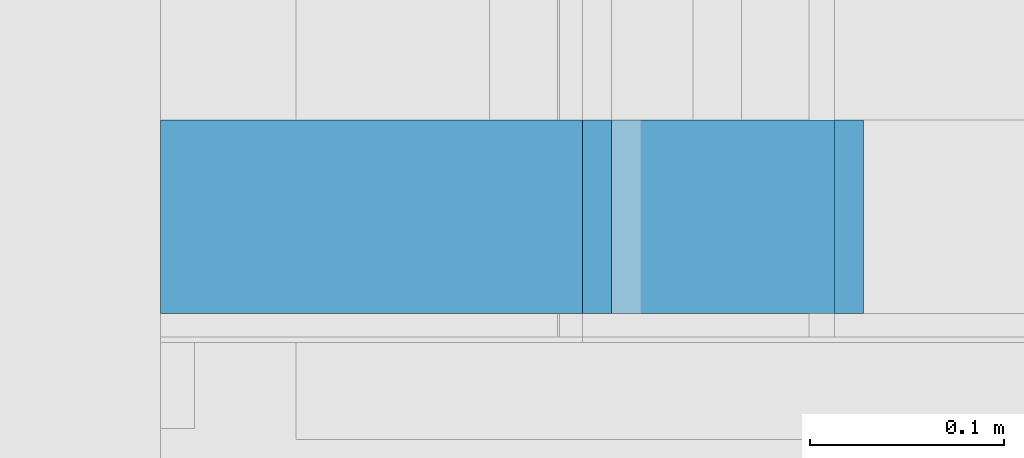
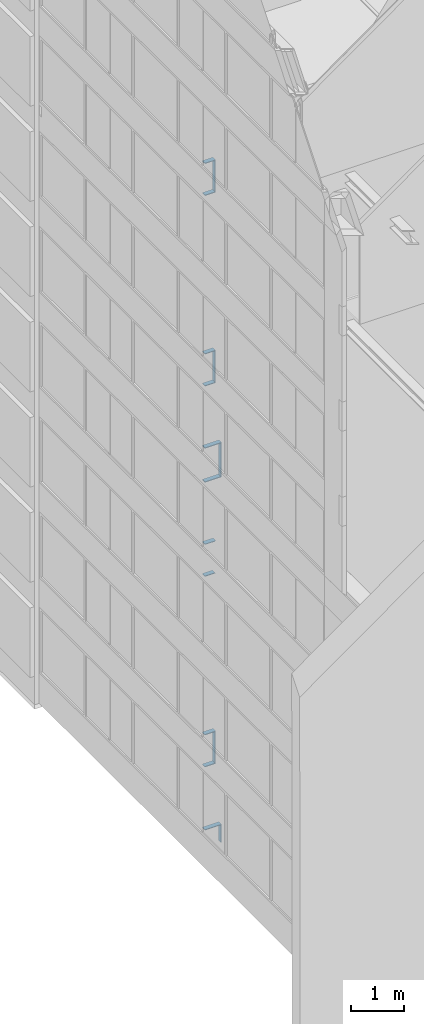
# One storey, part 195 of 583: 16 building element parts, 16 elements without a shape of their own.
"""IFC2X3 building model written with IfcOpenShell, lengths in metres."""

from ifc_helpers import new_model, entity, si_unit, converted_unit, derived_unit, money_unit, direction, frame, origin_with_axes, place, context, subcontext, project, spatial, polyline, outline, extrude, material, type_object, element, aggregate, save


model = new_model("IFC2X3")

# Units and contexts
model_context = context("Model", 3, precision=1e-05, world=origin_with_axes(), true_north=direction((0.0, 1.0)))
body_context = subcontext(model_context, "Body", "Model", "MODEL_VIEW", scale=1.0)
ifc_project = project(units=[si_unit("LENGTHUNIT", "METRE"), si_unit("AREAUNIT", "SQUARE_METRE"), si_unit("VOLUMEUNIT", "CUBIC_METRE"), si_unit("ABSORBEDDOSEUNIT", "GRAY"), si_unit("AMOUNTOFSUBSTANCEUNIT", "MOLE"), si_unit("DOSEEQUIVALENTUNIT", "SIEVERT"), si_unit("ELECTRICCAPACITANCEUNIT", "FARAD"), si_unit("ELECTRICCHARGEUNIT", "COULOMB"), si_unit("ELECTRICCONDUCTANCEUNIT", "SIEMENS"), si_unit("ELECTRICCURRENTUNIT", "AMPERE"), si_unit("ELECTRICRESISTANCEUNIT", "OHM"), si_unit("ELECTRICVOLTAGEUNIT", "VOLT"), si_unit("ENERGYUNIT", "JOULE"), si_unit("FORCEUNIT", "NEWTON"), si_unit("FREQUENCYUNIT", "HERTZ"), si_unit("ILLUMINANCEUNIT", "LUX"), si_unit("INDUCTANCEUNIT", "HENRY"), si_unit("LUMINOUSFLUXUNIT", "LUMEN"), si_unit("LUMINOUSINTENSITYUNIT", "CANDELA"), si_unit("MAGNETICFLUXDENSITYUNIT", "TESLA"), si_unit("MAGNETICFLUXUNIT", "WEBER"), si_unit("MASSUNIT", "GRAM"), converted_unit("PLANEANGLEUNIT", "degree", entity("IfcReal", 0.0174532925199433), si_unit("PLANEANGLEUNIT", "RADIAN"), dimensions=[0, 0, 0, 0, 0, 0, 0]), si_unit("POWERUNIT", "WATT"), si_unit("PRESSUREUNIT", "PASCAL"), si_unit("RADIOACTIVITYUNIT", "BECQUEREL"), si_unit("SOLIDANGLEUNIT", "STERADIAN"), si_unit("THERMODYNAMICTEMPERATUREUNIT", "KELVIN"), si_unit("TIMEUNIT", "SECOND"), derived_unit("ACCELERATIONUNIT", [(si_unit("LENGTHUNIT", "METRE"), 1), (si_unit("TIMEUNIT", "SECOND"), -2)]), derived_unit("ANGULARVELOCITYUNIT", [(converted_unit("PLANEANGLEUNIT", "degree", entity("IfcReal", 0.0174532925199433), si_unit("PLANEANGLEUNIT", "RADIAN"), dimensions=[0, 0, 0, 0, 0, 0, 0]), 1), (si_unit("TIMEUNIT", "SECOND"), -1)]), derived_unit("CURVATUREUNIT", [(converted_unit("PLANEANGLEUNIT", "degree", entity("IfcReal", 0.0174532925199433), si_unit("PLANEANGLEUNIT", "RADIAN"), dimensions=[0, 0, 0, 0, 0, 0, 0]), 1), (si_unit("LENGTHUNIT", "METRE"), -1)]), derived_unit("DYNAMICVISCOSITYUNIT", [(si_unit("PRESSUREUNIT", "PASCAL"), 1), (si_unit("TIMEUNIT", "SECOND"), 1)]), derived_unit("HEATFLUXDENSITYUNIT", [(si_unit("POWERUNIT", "WATT"), 1), (si_unit("LENGTHUNIT", "METRE"), -2)]), derived_unit("HEATINGVALUEUNIT", [(si_unit("ENERGYUNIT", "JOULE"), 1), (si_unit("MASSUNIT", "GRAM"), -1)]), derived_unit("INTEGERCOUNTRATEUNIT", [(si_unit("TIMEUNIT", "SECOND"), -1)]), derived_unit("IONCONCENTRATIONUNIT", [(si_unit("MASSUNIT", "GRAM"), 1), (si_unit("VOLUMEUNIT", "CUBIC_METRE"), -1)]), derived_unit("ISOTHERMALMOISTURECAPACITYUNIT", [(si_unit("VOLUMEUNIT", "CUBIC_METRE"), 1), (si_unit("MASSUNIT", "GRAM"), -1)]), derived_unit("KINEMATICVISCOSITYUNIT", [(si_unit("AREAUNIT", "SQUARE_METRE"), 1), (si_unit("TIMEUNIT", "SECOND"), -1)]), derived_unit("LINEARFORCEUNIT", [(si_unit("FORCEUNIT", "NEWTON"), 1), (si_unit("LENGTHUNIT", "METRE"), -1)]), derived_unit("LINEARMOMENTUNIT", [(si_unit("FORCEUNIT", "NEWTON"), 1), (si_unit("LENGTHUNIT", "METRE"), -1)]), derived_unit("LINEARSTIFFNESSUNIT", [(si_unit("FORCEUNIT", "NEWTON"), 1), (si_unit("LENGTHUNIT", "METRE"), -1)]), derived_unit("LINEARVELOCITYUNIT", [(si_unit("LENGTHUNIT", "METRE"), 1), (si_unit("TIMEUNIT", "SECOND"), -1)]), derived_unit("LUMINOUSINTENSITYDISTRIBUTIONUNIT", [(si_unit("LUMINOUSINTENSITYUNIT", "CANDELA"), 1), (si_unit("LUMINOUSFLUXUNIT", "LUMEN"), -1)]), derived_unit("MASSDENSITYUNIT", [(si_unit("MASSUNIT", "GRAM"), 1), (si_unit("VOLUMEUNIT", "CUBIC_METRE"), -1)]), derived_unit("MASSFLOWRATEUNIT", [(si_unit("MASSUNIT", "GRAM"), 1), (si_unit("TIMEUNIT", "SECOND"), -1)]), derived_unit("MASSPERLENGTHUNIT", [(si_unit("MASSUNIT", "GRAM"), 1), (si_unit("LENGTHUNIT", "METRE"), -1)]), derived_unit("MODULUSOFELASTICITYUNIT", [(si_unit("FORCEUNIT", "NEWTON"), 1), (si_unit("AREAUNIT", "SQUARE_METRE"), -1)]), derived_unit("MODULUSOFLINEARSUBGRADEREACTIONUNIT", [(si_unit("FORCEUNIT", "NEWTON"), 1), (si_unit("LENGTHUNIT", "METRE"), -2)]), derived_unit("MODULUSOFROTATIONALSUBGRADEREACTIONUNIT", [(si_unit("FORCEUNIT", "NEWTON"), 1), (si_unit("LENGTHUNIT", "METRE"), 1)]), derived_unit("MODULUSOFSUBGRADEREACTIONUNIT", [(si_unit("FORCEUNIT", "NEWTON"), 1), (si_unit("VOLUMEUNIT", "CUBIC_METRE"), -1)]), derived_unit("MOISTUREDIFFUSIVITYUNIT", [(si_unit("VOLUMEUNIT", "CUBIC_METRE"), 1), (si_unit("TIMEUNIT", "SECOND"), -1)]), derived_unit("MOLECULARWEIGHTUNIT", [(si_unit("MASSUNIT", "GRAM"), 1), (si_unit("AMOUNTOFSUBSTANCEUNIT", "MOLE"), -1)]), derived_unit("PLANARFORCEUNIT", [(si_unit("FORCEUNIT", "NEWTON"), 1), (si_unit("LENGTHUNIT", "METRE"), -2)]), derived_unit("ROTATIONALFREQUENCYUNIT", [(si_unit("TIMEUNIT", "SECOND"), -1)]), derived_unit("ROTATIONALMASSUNIT", [(si_unit("MASSUNIT", "GRAM"), 1), (si_unit("LENGTHUNIT", "METRE"), 2)]), derived_unit("ROTATIONALSTIFFNESSUNIT", [(si_unit("FORCEUNIT", "NEWTON"), 1), (si_unit("LENGTHUNIT", "METRE"), 1), (converted_unit("PLANEANGLEUNIT", "degree", entity("IfcReal", 0.0174532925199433), si_unit("PLANEANGLEUNIT", "RADIAN"), dimensions=[0, 0, 0, 0, 0, 0, 0]), -1)]), derived_unit("SECTIONAREAINTEGRALUNIT", [(si_unit("LENGTHUNIT", "METRE"), 5)]), derived_unit("SECTIONMODULUSUNIT", [(si_unit("LENGTHUNIT", "METRE"), 3)]), derived_unit("SHEARMODULUSUNIT", [(si_unit("FORCEUNIT", "NEWTON"), 1), (si_unit("AREAUNIT", "SQUARE_METRE"), -1)]), derived_unit("SOUNDPOWERUNIT", [(si_unit("ENERGYUNIT", "JOULE"), 1), (si_unit("TIMEUNIT", "SECOND"), -1)]), derived_unit("SPECIFICHEATCAPACITYUNIT", [(si_unit("FORCEUNIT", "NEWTON"), 1), (si_unit("MASSUNIT", "GRAM"), -1), (si_unit("THERMODYNAMICTEMPERATUREUNIT", "KELVIN"), -1)]), derived_unit("TEMPERATUREGRADIENTUNIT", [(si_unit("THERMODYNAMICTEMPERATUREUNIT", "KELVIN"), 1), (si_unit("LENGTHUNIT", "METRE"), -1)]), derived_unit("THERMALADMITTANCEUNIT", [(si_unit("POWERUNIT", "WATT"), 1), (si_unit("AREAUNIT", "SQUARE_METRE"), -1), (si_unit("THERMODYNAMICTEMPERATUREUNIT", "KELVIN"), -1)]), derived_unit("THERMALCONDUCTANCEUNIT", [(si_unit("POWERUNIT", "WATT"), 1), (si_unit("LENGTHUNIT", "METRE"), -1), (si_unit("THERMODYNAMICTEMPERATUREUNIT", "KELVIN"), -1)]), derived_unit("THERMALEXPANSIONCOEFFICIENTUNIT", [(si_unit("THERMODYNAMICTEMPERATUREUNIT", "KELVIN"), -1)]), derived_unit("THERMALRESISTANCEUNIT", [(si_unit("AREAUNIT", "SQUARE_METRE"), 1), (si_unit("POWERUNIT", "WATT"), -1)]), derived_unit("THERMALTRANSMITTANCEUNIT", [(si_unit("POWERUNIT", "WATT"), 1), (si_unit("AREAUNIT", "SQUARE_METRE"), -1), (si_unit("THERMODYNAMICTEMPERATUREUNIT", "KELVIN"), -1)]), derived_unit("TORQUEUNIT", [(si_unit("FORCEUNIT", "NEWTON"), 1), (si_unit("LENGTHUNIT", "METRE"), 1)]), derived_unit("VAPORPERMEABILITYUNIT", [(si_unit("MASSUNIT", "GRAM"), 1), (si_unit("TIMEUNIT", "SECOND"), -1)]), derived_unit("VOLUMETRICFLOWRATEUNIT", [(si_unit("VOLUMEUNIT", "CUBIC_METRE"), 1), (si_unit("TIMEUNIT", "SECOND"), -1)]), derived_unit("WARPINGCONSTANTUNIT", [(si_unit("LENGTHUNIT", "METRE"), 6)]), derived_unit("WARPINGMOMENTUNIT", [(si_unit("FORCEUNIT", "NEWTON"), 1), (si_unit("LENGTHUNIT", "METRE"), 2)]), money_unit("GBP")], contexts=[model_context])

# Site, building, storey
site_placement = place(None, origin_with_axes())
site = spatial("IfcSite", under=ifc_project, at=site_placement, Name="Site", CompositionType="ELEMENT")
building_placement = place(site_placement, origin_with_axes())
building = spatial("IfcBuilding", under=site, at=building_placement, Name="Building01", CompositionType="ELEMENT")
storey_placement = place(building_placement, frame((0.0, 0.0, 20.78), z_axis=(0.0, 0.0, 1.0), x_axis=(1.0, 0.0, 0.0)))
storey = spatial("IfcBuildingStorey", under=building, at=storey_placement, Name="RL", CompositionType="ELEMENT", Elevation=20.78)

# Wall, building element part
wall_type = type_object("IfcWallType", Name="SHE_A-Walls_Type06d_ExternalWallInsulation_48mm", PredefinedType="NOTDEFINED")
wall_1_placement = place(storey_placement, frame((0.4, 8.64, -20.51), z_axis=(0.0, 1.0, 0.0), x_axis=(0.0, 0.0, 1.0)))
wall_1 = element("IfcWall", 1, at=wall_1_placement, inside=storey, type_object=wall_type, Name="6D", ObjectType="SHE_A-Walls_Type06d_ExternalWallInsulation_48mm")
ifc_material = material(Name="A_BSUK_Walls_Timber")
building_element_part_1_placement = place(wall_1_placement, origin_with_axes())
building_element_part_1 = element("IfcBuildingElementPart", 2, at=building_element_part_1_placement, material=ifc_material, Name="2", context=body_context, shape_type="SweptSolid", body=[
    extrude(outline(polyline([(0.47, 0.063), (0.063, 0.063), (0.048, 0.048), (0.455, 0.048), (0.47, 0.063)])), frame((0.0, 0.0, 0.015), z_axis=(0.0, 0.0, 1.0), x_axis=(1.0, 0.0, 0.0)), (0.0, 0.0, 1.0), 0.1),
])
aggregate(wall_1, [building_element_part_1])

wall_2_placement = place(storey_placement, frame((0.4, 8.64, -20.103), z_axis=(0.0, 1.0, 0.0), x_axis=(-1.0, 0.0, 0.0)))
wall_2 = element("IfcWall", 3, at=wall_2_placement, inside=storey, type_object=wall_type, Name="6D", ObjectType="SHE_A-Walls_Type06d_ExternalWallInsulation_48mm")
building_element_part_2_placement = place(wall_2_placement, origin_with_axes())
building_element_part_2 = element("IfcBuildingElementPart", 4, at=building_element_part_2_placement, material=ifc_material, Name="2", context=body_context, shape_type="SweptSolid", body=[
    extrude(outline(polyline([(-0.063, 0.063), (-0.048, 0.048), (0.3, 0.048), (0.3, 0.063), (-0.063, 0.063)])), frame((0.0, 0.0, 0.015), z_axis=(0.0, 0.0, 1.0), x_axis=(1.0, 0.0, 0.0)), (0.0, 0.0, 1.0), 0.1),
])
aggregate(wall_2, [building_element_part_2])

wall_3_placement = place(storey_placement, frame((0.1, 8.64, -18.537), z_axis=(0.0, 1.0, 0.0), x_axis=(1.0, 0.0, 0.0)))
wall_3 = element("IfcWall", 5, at=wall_3_placement, inside=storey, type_object=wall_type, Name="6D", ObjectType="SHE_A-Walls_Type06d_ExternalWallInsulation_48mm")
building_element_part_3_placement = place(wall_3_placement, origin_with_axes())
building_element_part_3 = element("IfcBuildingElementPart", 6, at=building_element_part_3_placement, material=ifc_material, Name="2", context=body_context, shape_type="SweptSolid", body=[
    extrude(outline(polyline([(0.233, 0.063), (0.0, 0.063), (0.0, 0.048), (0.218, 0.048), (0.233, 0.063)])), frame((0.0, 0.0, 0.015), z_axis=(0.0, 0.0, 1.0), x_axis=(1.0, 0.0, 0.0)), (0.0, 0.0, 1.0), 0.1),
])
aggregate(wall_3, [building_element_part_3])

wall_4_placement = place(storey_placement, frame((0.27, 8.64, -18.537), z_axis=(0.0, 1.0, 0.0), x_axis=(0.0, 0.0, 1.0)))
wall_4 = element("IfcWall", 7, at=wall_4_placement, inside=storey, type_object=wall_type, Name="6D", ObjectType="SHE_A-Walls_Type06d_ExternalWallInsulation_48mm")
building_element_part_4_placement = place(wall_4_placement, origin_with_axes())
building_element_part_4 = element("IfcBuildingElementPart", 8, at=building_element_part_4_placement, material=ifc_material, Name="2", context=body_context, shape_type="SweptSolid", body=[
    extrude(outline(polyline([(0.687, 0.063), (-0.063, 0.063), (-0.048, 0.048), (0.672, 0.048), (0.687, 0.063)])), frame((0.0, 0.0, 0.015), z_axis=(0.0, 0.0, 1.0), x_axis=(1.0, 0.0, 0.0)), (0.0, 0.0, 1.0), 0.1),
])
aggregate(wall_4, [building_element_part_4])

wall_5_placement = place(storey_placement, frame((0.27, 8.64, -17.913), z_axis=(0.0, 1.0, 0.0), x_axis=(-1.0, 0.0, 0.0)))
wall_5 = element("IfcWall", 9, at=wall_5_placement, inside=storey, type_object=wall_type, Name="6D", ObjectType="SHE_A-Walls_Type06d_ExternalWallInsulation_48mm")
building_element_part_5_placement = place(wall_5_placement, origin_with_axes())
building_element_part_5 = element("IfcBuildingElementPart", 10, at=building_element_part_5_placement, material=ifc_material, Name="2", context=body_context, shape_type="SweptSolid", body=[
    extrude(outline(polyline([(-0.063, 0.063), (-0.048, 0.048), (0.17, 0.048), (0.17, 0.063), (-0.063, 0.063)])), frame((0.0, 0.0, 0.015), z_axis=(0.0, 0.0, 1.0), x_axis=(1.0, 0.0, 0.0)), (0.0, 0.0, 1.0), 0.1),
])
aggregate(wall_5, [building_element_part_5])

wall_6_placement = place(storey_placement, frame((0.1, 8.64, -14.157), z_axis=(0.0, 1.0, 0.0), x_axis=(1.0, 0.0, 0.0)))
wall_6 = element("IfcWall", 11, at=wall_6_placement, inside=storey, type_object=wall_type, Name="6D", ObjectType="SHE_A-Walls_Type06d_ExternalWallInsulation_48mm")
building_element_part_6_placement = place(wall_6_placement, origin_with_axes())
building_element_part_6 = element("IfcBuildingElementPart", 12, at=building_element_part_6_placement, material=ifc_material, Name="2", context=body_context, shape_type="SweptSolid", body=[
    extrude(outline(polyline([(0.233, 0.063), (0.0, 0.063), (0.0, 0.048), (0.218, 0.048), (0.233, 0.063)])), frame((0.0, 0.0, 0.015), z_axis=(0.0, 0.0, 1.0), x_axis=(1.0, 0.0, 0.0)), (0.0, 0.0, 1.0), 0.1),
])
aggregate(wall_6, [building_element_part_6])

wall_7_placement = place(storey_placement, frame((0.27, 8.64, -13.533), z_axis=(0.0, 1.0, 0.0), x_axis=(-1.0, 0.0, 0.0)))
wall_7 = element("IfcWall", 13, at=wall_7_placement, inside=storey, type_object=wall_type, Name="6D", ObjectType="SHE_A-Walls_Type06d_ExternalWallInsulation_48mm")
building_element_part_7_placement = place(wall_7_placement, origin_with_axes())
building_element_part_7 = element("IfcBuildingElementPart", 14, at=building_element_part_7_placement, material=ifc_material, Name="2", context=body_context, shape_type="SweptSolid", body=[
    extrude(outline(polyline([(-0.063, 0.063), (-0.048, 0.048), (0.17, 0.048), (0.17, 0.063), (-0.063, 0.063)])), frame((0.0, 0.0, 0.015), z_axis=(0.0, 0.0, 1.0), x_axis=(1.0, 0.0, 0.0)), (0.0, 0.0, 1.0), 0.1),
])
aggregate(wall_7, [building_element_part_7])

wall_8_placement = place(storey_placement, frame((0.1, 8.64, -11.99), z_axis=(0.0, 1.0, 0.0), x_axis=(1.0, 0.0, 0.0)))
wall_8 = element("IfcWall", 15, at=wall_8_placement, inside=storey, type_object=wall_type, Name="6D", ObjectType="SHE_A-Walls_Type06d_ExternalWallInsulation_48mm")
building_element_part_8_placement = place(wall_8_placement, origin_with_axes())
building_element_part_8 = element("IfcBuildingElementPart", 16, at=building_element_part_8_placement, material=ifc_material, Name="2", context=body_context, shape_type="SweptSolid", body=[
    extrude(outline(polyline([(0.363, 0.063), (0.0, 0.063), (0.0, 0.048), (0.348, 0.048), (0.363, 0.063)])), frame((0.0, 0.0, 0.015), z_axis=(0.0, 0.0, 1.0), x_axis=(1.0, 0.0, 0.0)), (0.0, 0.0, 1.0), 0.1),
])
aggregate(wall_8, [building_element_part_8])

wall_9_placement = place(storey_placement, frame((0.4, 8.64, -11.99), z_axis=(0.0, 1.0, 0.0), x_axis=(0.0, 0.0, 1.0)))
wall_9 = element("IfcWall", 17, at=wall_9_placement, inside=storey, type_object=wall_type, Name="6D", ObjectType="SHE_A-Walls_Type06d_ExternalWallInsulation_48mm")
building_element_part_9_placement = place(wall_9_placement, origin_with_axes())
building_element_part_9 = element("IfcBuildingElementPart", 18, at=building_element_part_9_placement, material=ifc_material, Name="2", context=body_context, shape_type="SweptSolid", body=[
    extrude(outline(polyline([(0.733, 0.063), (-0.063, 0.063), (-0.048, 0.048), (0.718, 0.048), (0.733, 0.063)])), frame((0.0, 0.0, 0.015), z_axis=(0.0, 0.0, 1.0), x_axis=(1.0, 0.0, 0.0)), (0.0, 0.0, 1.0), 0.1),
])
aggregate(wall_9, [building_element_part_9])

wall_10_placement = place(storey_placement, frame((0.4, 8.64, -11.32), z_axis=(0.0, 1.0, 0.0), x_axis=(-1.0, 0.0, 0.0)))
wall_10 = element("IfcWall", 19, at=wall_10_placement, inside=storey, type_object=wall_type, Name="6D", ObjectType="SHE_A-Walls_Type06d_ExternalWallInsulation_48mm")
building_element_part_10_placement = place(wall_10_placement, origin_with_axes())
building_element_part_10 = element("IfcBuildingElementPart", 20, at=building_element_part_10_placement, material=ifc_material, Name="2", context=body_context, shape_type="SweptSolid", body=[
    extrude(outline(polyline([(-0.063, 0.063), (-0.048, 0.048), (0.3, 0.048), (0.3, 0.063), (-0.063, 0.063)])), frame((0.0, 0.0, 0.015), z_axis=(0.0, 0.0, 1.0), x_axis=(1.0, 0.0, 0.0)), (0.0, 0.0, 1.0), 0.1),
])
aggregate(wall_10, [building_element_part_10])

wall_11_placement = place(storey_placement, frame((0.1, 8.64, -9.777), z_axis=(0.0, 1.0, 0.0), x_axis=(1.0, 0.0, 0.0)))
wall_11 = element("IfcWall", 21, at=wall_11_placement, inside=storey, type_object=wall_type, Name="6D", ObjectType="SHE_A-Walls_Type06d_ExternalWallInsulation_48mm")
building_element_part_11_placement = place(wall_11_placement, origin_with_axes())
building_element_part_11 = element("IfcBuildingElementPart", 22, at=building_element_part_11_placement, material=ifc_material, Name="2", context=body_context, shape_type="SweptSolid", body=[
    extrude(outline(polyline([(0.233, 0.063), (0.0, 0.063), (0.0, 0.048), (0.218, 0.048), (0.233, 0.063)])), frame((0.0, 0.0, 0.015), z_axis=(0.0, 0.0, 1.0), x_axis=(1.0, 0.0, 0.0)), (0.0, 0.0, 1.0), 0.1),
])
aggregate(wall_11, [building_element_part_11])

wall_12_placement = place(storey_placement, frame((0.27, 8.64, -9.777), z_axis=(0.0, 1.0, 0.0), x_axis=(0.0, 0.0, 1.0)))
wall_12 = element("IfcWall", 23, at=wall_12_placement, inside=storey, type_object=wall_type, Name="6D", ObjectType="SHE_A-Walls_Type06d_ExternalWallInsulation_48mm")
building_element_part_12_placement = place(wall_12_placement, origin_with_axes())
building_element_part_12 = element("IfcBuildingElementPart", 24, at=building_element_part_12_placement, material=ifc_material, Name="2", context=body_context, shape_type="SweptSolid", body=[
    extrude(outline(polyline([(0.687, 0.063), (-0.063, 0.063), (-0.048, 0.048), (0.672, 0.048), (0.687, 0.063)])), frame((0.0, 0.0, 0.015), z_axis=(0.0, 0.0, 1.0), x_axis=(1.0, 0.0, 0.0)), (0.0, 0.0, 1.0), 0.1),
])
aggregate(wall_12, [building_element_part_12])

wall_13_placement = place(storey_placement, frame((0.27, 8.64, -9.153), z_axis=(0.0, 1.0, 0.0), x_axis=(-1.0, 0.0, 0.0)))
wall_13 = element("IfcWall", 25, at=wall_13_placement, inside=storey, type_object=wall_type, Name="6D", ObjectType="SHE_A-Walls_Type06d_ExternalWallInsulation_48mm")
building_element_part_13_placement = place(wall_13_placement, origin_with_axes())
building_element_part_13 = element("IfcBuildingElementPart", 26, at=building_element_part_13_placement, material=ifc_material, Name="2", context=body_context, shape_type="SweptSolid", body=[
    extrude(outline(polyline([(-0.063, 0.063), (-0.048, 0.048), (0.17, 0.048), (0.17, 0.063), (-0.063, 0.063)])), frame((0.0, 0.0, 0.015), z_axis=(0.0, 0.0, 1.0), x_axis=(1.0, 0.0, 0.0)), (0.0, 0.0, 1.0), 0.1),
])
aggregate(wall_13, [building_element_part_13])

wall_14_placement = place(storey_placement, frame((0.1, 8.64, -5.397), z_axis=(0.0, 1.0, 0.0), x_axis=(1.0, 0.0, 0.0)))
wall_14 = element("IfcWall", 27, at=wall_14_placement, inside=storey, type_object=wall_type, Name="6D", ObjectType="SHE_A-Walls_Type06d_ExternalWallInsulation_48mm")
building_element_part_14_placement = place(wall_14_placement, origin_with_axes())
building_element_part_14 = element("IfcBuildingElementPart", 28, at=building_element_part_14_placement, material=ifc_material, Name="2", context=body_context, shape_type="SweptSolid", body=[
    extrude(outline(polyline([(0.233, 0.063), (0.0, 0.063), (0.0, 0.048), (0.218, 0.048), (0.233, 0.063)])), frame((0.0, 0.0, 0.015), z_axis=(0.0, 0.0, 1.0), x_axis=(1.0, 0.0, 0.0)), (0.0, 0.0, 1.0), 0.1),
])
aggregate(wall_14, [building_element_part_14])

wall_15_placement = place(storey_placement, frame((0.27, 8.64, -5.397), z_axis=(0.0, 1.0, 0.0), x_axis=(0.0, 0.0, 1.0)))
wall_15 = element("IfcWall", 29, at=wall_15_placement, inside=storey, type_object=wall_type, Name="6D", ObjectType="SHE_A-Walls_Type06d_ExternalWallInsulation_48mm")
building_element_part_15_placement = place(wall_15_placement, origin_with_axes())
building_element_part_15 = element("IfcBuildingElementPart", 30, at=building_element_part_15_placement, material=ifc_material, Name="2", context=body_context, shape_type="SweptSolid", body=[
    extrude(outline(polyline([(0.687, 0.063), (-0.063, 0.063), (-0.048, 0.048), (0.672, 0.048), (0.687, 0.063)])), frame((0.0, 0.0, 0.015), z_axis=(0.0, 0.0, 1.0), x_axis=(1.0, 0.0, 0.0)), (0.0, 0.0, 1.0), 0.1),
])
aggregate(wall_15, [building_element_part_15])

wall_16_placement = place(storey_placement, frame((0.27, 8.64, -4.773), z_axis=(0.0, 1.0, 0.0), x_axis=(-1.0, 0.0, 0.0)))
wall_16 = element("IfcWall", 31, at=wall_16_placement, inside=storey, type_object=wall_type, Name="6D", ObjectType="SHE_A-Walls_Type06d_ExternalWallInsulation_48mm")
building_element_part_16_placement = place(wall_16_placement, origin_with_axes())
building_element_part_16 = element("IfcBuildingElementPart", 32, at=building_element_part_16_placement, material=ifc_material, Name="2", context=body_context, shape_type="SweptSolid", body=[
    extrude(outline(polyline([(-0.063, 0.063), (-0.048, 0.048), (0.17, 0.048), (0.17, 0.063), (-0.063, 0.063)])), frame((0.0, 0.0, 0.015), z_axis=(0.0, 0.0, 1.0), x_axis=(1.0, 0.0, 0.0)), (0.0, 0.0, 1.0), 0.1),
])
aggregate(wall_16, [building_element_part_16])

save(model, "model.ifc")
